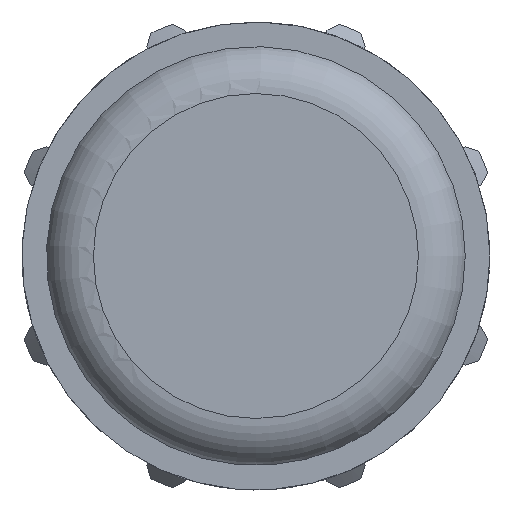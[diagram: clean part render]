
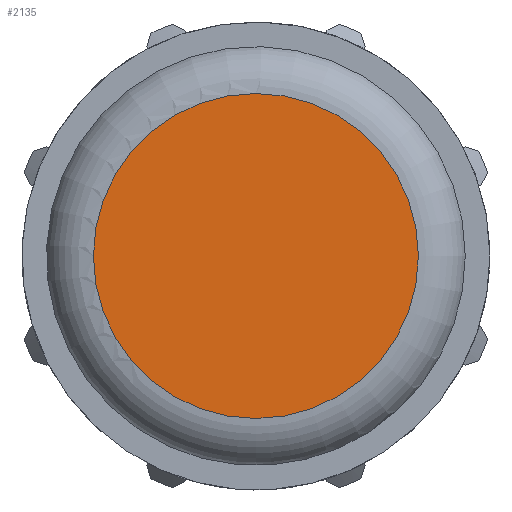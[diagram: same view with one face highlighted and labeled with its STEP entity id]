
A CAD part, left-side view. The second image highlights one B-rep face of the part: STEP entity #2135.
In plain terms, the highlighted planar face has unit normal (-1, 0, 0).
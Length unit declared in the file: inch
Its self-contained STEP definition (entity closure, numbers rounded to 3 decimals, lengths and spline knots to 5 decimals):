
#94=PLANE('',#2282);
#487=FACE_OUTER_BOUND('',#602,.T.);
#602=EDGE_LOOP('',(#1387));
#732=CIRCLE('',#2278,0.7025);
#841=VERTEX_POINT('',#3115);
#1058=EDGE_CURVE('',#841,#841,#732,.T.);
#1387=ORIENTED_EDGE('',*,*,#1058,.F.);
#2135=ADVANCED_FACE('',(#487),#94,.T.);
#2278=AXIS2_PLACEMENT_3D('',#3116,#2518,#2519);
#2282=AXIS2_PLACEMENT_3D('',#3122,#2526,#2527);
#2518=DIRECTION('center_axis',(1.,0.,0.));
#2519=DIRECTION('ref_axis',(0.,1.,0.));
#2526=DIRECTION('center_axis',(-1.,0.,0.));
#2527=DIRECTION('ref_axis',(0.,0.,1.));
#3115=CARTESIAN_POINT('',(0.,-0.7025,0.0003));
#3116=CARTESIAN_POINT('Origin',(0.,0.,0.));
#3122=CARTESIAN_POINT('Origin',(0.,0.90525,0.));
